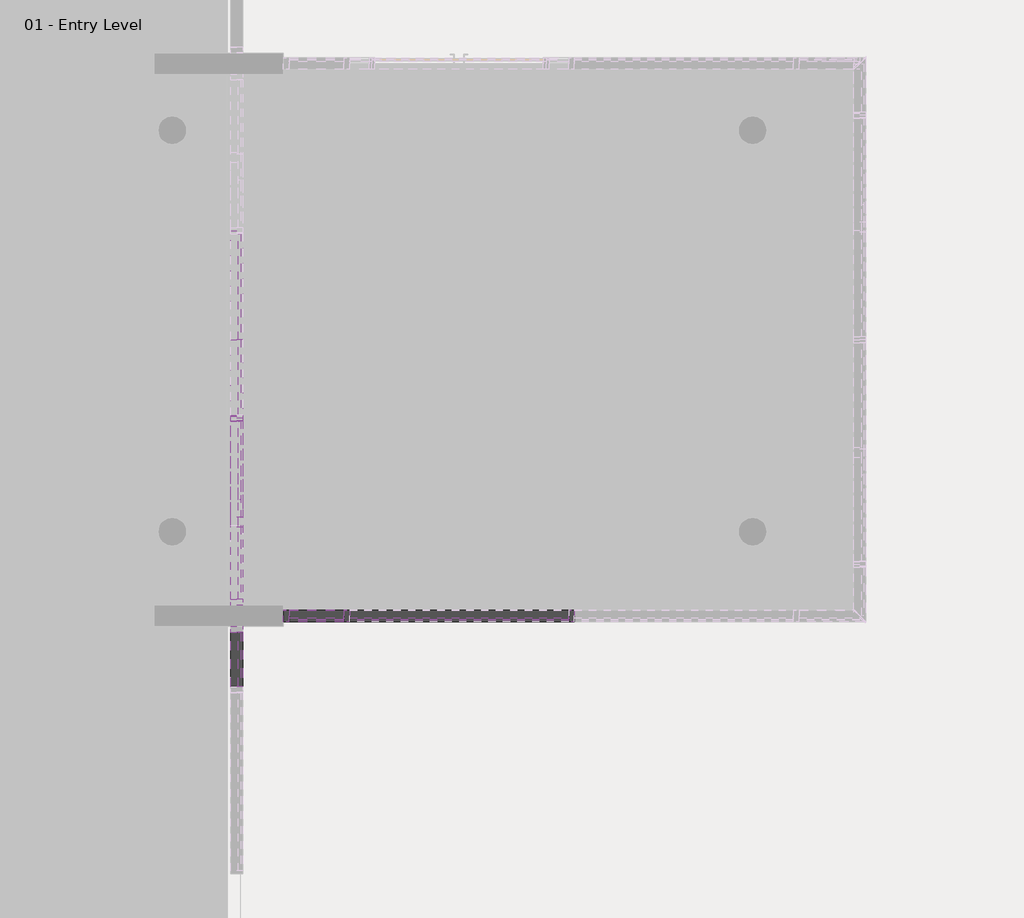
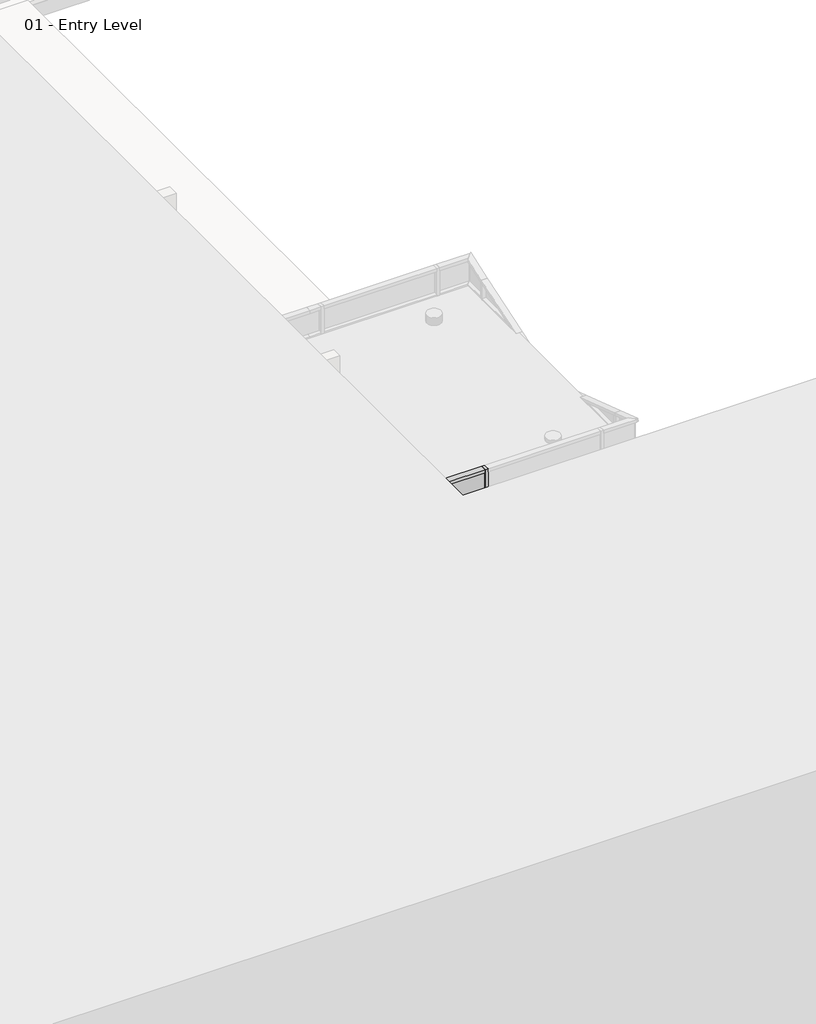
# One storey, part 13 of 35: 83 members, 41 plates.
"""IFC4 building model written with IfcOpenShell, lengths in millimetres."""

from ifc_helpers import new_model, si_unit, origin, place, context, project, spatial, transform, mapped, element, save
from components import member_2b49869a, member_75074519, member_4f18b2ac, member_7a85b04f, member_27fd6fac, member_2603a644, member_ab5e8816, member_dc06a31d, member_4c11d242, member_97c9a22f, member_29dce480, member_6e77e263, member_47bfaf8a, member_b2bde9e6, member_89bfb2f9, member_5aa65f11, member_b5354135, system_panel_glazed_f46199af, system_panel_glazed_10735cc6, system_panel_glazed_1b9d6098, system_panel_glazed_a2373be0, system_panel_glazed_70da479d, system_panel_glazed_6a6e56af, system_panel_glazed_a1864e1b, system_panel_glazed_99a26212, system_panel_glazed_a675a60c, system_panel_glazed_1068a10c, system_panel_glazed_a178916c, system_panel_glazed_0805a858, system_panel_glazed_439dd39a

model = new_model("IFC4")

# Units and contexts
model_context = context("Model", 3, world=origin())
ifc_project = project(units=[si_unit("LENGTHUNIT", "METRE", prefix="MILLI")], contexts=[model_context])

# Site, building, storey
site = spatial("IfcSite", under=ifc_project)
building = spatial("IfcBuilding", under=site)
storey = spatial("IfcBuildingStorey", under=building, Name="01 - Entry Level", Elevation=0.0)

# Members
placement = place(None, origin())
member_shape = member_2b49869a(model_context)
element("IfcMember", 1, ObjectType="Rectangular Mullion : 2.5\" x 5\" rectangular", at=placement, inside=storey, context=model_context, shape_type="MappedRepresentation", body=[
    mapped(member_shape, transform((17184.0207476, 18697.5, 9753.6), x_axis=(0.0, 1.0, 0.0), y_axis=(1.0, 0.0, 0.0), z_axis=(0.0, 0.0, -1.0))),
])
member_2_shape = member_75074519(model_context)
element("IfcMember", 2, ObjectType="Rectangular Mullion : 2.5\" x 5\" rectangular", at=placement, inside=storey, context=model_context, shape_type="MappedRepresentation", body=[
    mapped(member_2_shape, transform((17184.0207476, 16436.9, 9753.6), x_axis=(0.0, 1.0, 0.0), y_axis=(1.0, 0.0, 0.0), z_axis=(0.0, 0.0, -1.0))),
])
member_3_shape = member_4f18b2ac(model_context)
element("IfcMember", 3, ObjectType="Rectangular Mullion : 2.5\" x 5\" rectangular", at=placement, inside=storey, context=model_context, shape_type="MappedRepresentation", body=[
    mapped(member_3_shape, transform((17184.0207476, 18665.75, 10972.8), x_axis=(0.0, 0.0, 1.0), y_axis=(1.0, 0.0, 0.0), z_axis=(0.0, 1.0, 0.0))),
])
member_4_shape = member_7a85b04f(model_context)
element("IfcMember", 4, ObjectType="Rectangular Mullion : 2.5\" x 5\" rectangular", at=placement, inside=storey, context=model_context, shape_type="MappedRepresentation", body=[
    mapped(member_4_shape, transform((17184.0207476, 18665.75, 8534.4), x_axis=(0.0, 0.0, 1.0), y_axis=(1.0, 0.0, 0.0), z_axis=(0.0, 1.0, 0.0))),
])
element("IfcMember", 5, ObjectType="Rectangular Mullion : 2.5\" x 5\" rectangular", at=placement, inside=storey, context=model_context, shape_type="MappedRepresentation", body=[
    mapped(member_4_shape, transform((17184.0207476, 18665.75, 9753.6), x_axis=(0.0, 0.0, 1.0), y_axis=(1.0, 0.0, 0.0), z_axis=(0.0, 1.0, 0.0))),
])
element("IfcMember", 6, ObjectType="Rectangular Mullion : 2.5\" x 5\" rectangular", at=placement, inside=storey, context=model_context, shape_type="MappedRepresentation", body=[
    mapped(member_shape, transform((17184.0207476, 18697.5, 7315.2), x_axis=(0.0, 1.0, 0.0), y_axis=(1.0, 0.0, 0.0), z_axis=(0.0, 0.0, -1.0))),
])
element("IfcMember", 7, ObjectType="Rectangular Mullion : 2.5\" x 5\" rectangular", at=placement, inside=storey, context=model_context, shape_type="MappedRepresentation", body=[
    mapped(member_shape, transform((17184.0207476, 18697.5, 8534.4), x_axis=(0.0, 1.0, 0.0), y_axis=(1.0, 0.0, 0.0), z_axis=(0.0, 0.0, -1.0))),
])
member_5_shape = member_27fd6fac(model_context)
element("IfcMember", 8, ObjectType="Rectangular Mullion : 2.5\" x 5\" rectangular", at=placement, inside=storey, context=model_context, shape_type="MappedRepresentation", body=[
    mapped(member_5_shape, transform((17184.0207476, 19548.4, 6637.4207436), x_axis=(0.0, 0.3162277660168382, -0.9486832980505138), y_axis=(1.0, 0.0, 0.0), z_axis=(0.0, -0.9486832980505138, -0.3162277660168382))),
])
member_6_shape = member_2603a644(model_context)
element("IfcMember", 9, ObjectType="Rectangular Mullion : 2.5\" x 5\" rectangular", at=placement, inside=storey, context=model_context, shape_type="MappedRepresentation", body=[
    mapped(member_6_shape, transform((17184.0207476, 18697.5, 6921.0540769), x_axis=(0.0, -0.31622776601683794, -0.9486832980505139), y_axis=(1.0, 0.0, 0.0), z_axis=(0.0, -0.9486832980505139, 0.31622776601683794))),
])
member_7_shape = member_ab5e8816(model_context)
element("IfcMember", 10, ObjectType="Rectangular Mullion : 2.5\" x 5\" rectangular", at=placement, inside=storey, context=model_context, shape_type="MappedRepresentation", body=[
    mapped(member_7_shape, transform((17184.0207476, 17515.0622308, 7315.2), x_axis=(0.0, -0.31622776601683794, -0.9486832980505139), y_axis=(1.0, 0.0, 0.0), z_axis=(0.0, -0.9486832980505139, 0.31622776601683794))),
])
member_8_shape = member_dc06a31d(model_context)
element("IfcMember", 11, ObjectType="Rectangular Mullion : 2.5\" x 5\" rectangular", at=placement, inside=storey, context=model_context, shape_type="MappedRepresentation", body=[
    mapped(member_8_shape, transform((17184.0207476, 18665.75, 7315.2), x_axis=(0.0, 0.0, 1.0), y_axis=(1.0, 0.0, 0.0), z_axis=(0.0, 1.0, 0.0))),
])
member_9_shape = member_4c11d242(model_context)
element("IfcMember", 12, ObjectType="Rectangular Mullion : 2.5\" x 5\" rectangular", at=placement, inside=storey, context=model_context, shape_type="MappedRepresentation", body=[
    mapped(member_9_shape, transform((17184.0207476, 18697.5, 6921.0540769), x_axis=(0.0, 1.0, 0.0), y_axis=(1.0, 0.0, 0.0), z_axis=(0.0, 0.0, -1.0))),
])
element("IfcMember", 13, ObjectType="Rectangular Mullion : 2.5\" x 5\" rectangular", at=placement, inside=storey, context=model_context, shape_type="MappedRepresentation", body=[
    mapped(member_2_shape, transform((17184.0207476, 16436.9, 2438.4), x_axis=(0.0, 1.0, 0.0), y_axis=(1.0, 0.0, 0.0), z_axis=(0.0, 0.0, -1.0))),
])
element("IfcMember", 14, ObjectType="Rectangular Mullion : 2.5\" x 5\" rectangular", at=placement, inside=storey, context=model_context, shape_type="MappedRepresentation", body=[
    mapped(member_2_shape, transform((17184.0207476, 16436.9, 3657.6), x_axis=(0.0, 1.0, 0.0), y_axis=(1.0, 0.0, 0.0), z_axis=(0.0, 0.0, -1.0))),
])
element("IfcMember", 15, ObjectType="Rectangular Mullion : 2.5\" x 5\" rectangular", at=placement, inside=storey, context=model_context, shape_type="MappedRepresentation", body=[
    mapped(member_2_shape, transform((17184.0207476, 16436.9, 4876.8), x_axis=(0.0, 1.0, 0.0), y_axis=(1.0, 0.0, 0.0), z_axis=(0.0, 0.0, -1.0))),
])
element("IfcMember", 16, ObjectType="Rectangular Mullion : 2.5\" x 5\" rectangular", at=placement, inside=storey, context=model_context, shape_type="MappedRepresentation", body=[
    mapped(member_2_shape, transform((17184.0207476, 16436.9, 6096.0), x_axis=(0.0, 1.0, 0.0), y_axis=(1.0, 0.0, 0.0), z_axis=(0.0, 0.0, -1.0))),
])
element("IfcMember", 17, ObjectType="Rectangular Mullion : 2.5\" x 5\" rectangular", at=placement, inside=storey, context=model_context, shape_type="MappedRepresentation", body=[
    mapped(member_2_shape, transform((17184.0207476, 16436.9, 7315.2), x_axis=(0.0, 1.0, 0.0), y_axis=(1.0, 0.0, 0.0), z_axis=(0.0, 0.0, -1.0))),
])
element("IfcMember", 18, ObjectType="Rectangular Mullion : 2.5\" x 5\" rectangular", at=placement, inside=storey, context=model_context, shape_type="MappedRepresentation", body=[
    mapped(member_2_shape, transform((17184.0207476, 16436.9, 8534.4), x_axis=(0.0, 1.0, 0.0), y_axis=(1.0, 0.0, 0.0), z_axis=(0.0, 0.0, -1.0))),
])
element("IfcMember", 19, ObjectType="Rectangular Mullion : 2.5\" x 5\" rectangular", at=placement, inside=storey, context=model_context, shape_type="MappedRepresentation", body=[
    mapped(member_2_shape, transform((17184.0207476, 16665.5, 9753.6), x_axis=(0.0, -1.0, 0.0), y_axis=(1.0, 0.0, 0.0), z_axis=(0.0, 0.0, 1.0))),
])
member_10_shape = member_97c9a22f(model_context)
element("IfcMember", 20, ObjectType="Rectangular Mullion : 2.5\" x 5\" rectangular", at=placement, inside=storey, context=model_context, shape_type="MappedRepresentation", body=[
    mapped(member_10_shape, transform((17184.0207476, 16665.5, 8534.4), x_axis=(0.0, -1.0, 0.0), y_axis=(1.0, 0.0, 0.0), z_axis=(0.0, 0.0, 1.0))),
])
member_11_shape = member_29dce480(model_context)
element("IfcMember", 21, ObjectType="Rectangular Mullion : 2.5\" x 5\" rectangular", at=placement, inside=storey, context=model_context, shape_type="MappedRepresentation", body=[
    mapped(member_11_shape, transform((17184.0207476, 16373.4, 1219.2), x_axis=(0.0, 0.0, 1.0), y_axis=(1.0, 0.0, 0.0), z_axis=(0.0, 1.0, 0.0))),
])
element("IfcMember", 22, ObjectType="Rectangular Mullion : 2.5\" x 5\" rectangular", at=placement, inside=storey, context=model_context, shape_type="MappedRepresentation", body=[
    mapped(member_11_shape, transform((17184.0207476, 16373.4, 2438.4), x_axis=(0.0, 0.0, 1.0), y_axis=(1.0, 0.0, 0.0), z_axis=(0.0, 1.0, 0.0))),
])
element("IfcMember", 23, ObjectType="Rectangular Mullion : 2.5\" x 5\" rectangular", at=placement, inside=storey, context=model_context, shape_type="MappedRepresentation", body=[
    mapped(member_11_shape, transform((17184.0207476, 16373.4, 3657.6), x_axis=(0.0, 0.0, 1.0), y_axis=(1.0, 0.0, 0.0), z_axis=(0.0, 1.0, 0.0))),
])
element("IfcMember", 24, ObjectType="Rectangular Mullion : 2.5\" x 5\" rectangular", at=placement, inside=storey, context=model_context, shape_type="MappedRepresentation", body=[
    mapped(member_11_shape, transform((17184.0207476, 16373.4, 4876.8), x_axis=(0.0, 0.0, 1.0), y_axis=(1.0, 0.0, 0.0), z_axis=(0.0, 1.0, 0.0))),
])
element("IfcMember", 25, ObjectType="Rectangular Mullion : 2.5\" x 5\" rectangular", at=placement, inside=storey, context=model_context, shape_type="MappedRepresentation", body=[
    mapped(member_11_shape, transform((17184.0207476, 16373.4, 6096.0), x_axis=(0.0, 0.0, 1.0), y_axis=(1.0, 0.0, 0.0), z_axis=(0.0, 1.0, 0.0))),
])
element("IfcMember", 26, ObjectType="Rectangular Mullion : 2.5\" x 5\" rectangular", at=placement, inside=storey, context=model_context, shape_type="MappedRepresentation", body=[
    mapped(member_11_shape, transform((17184.0207476, 16373.4, 7315.2), x_axis=(0.0, 0.0, 1.0), y_axis=(1.0, 0.0, 0.0), z_axis=(0.0, 1.0, 0.0))),
])
element("IfcMember", 27, ObjectType="Rectangular Mullion : 2.5\" x 5\" rectangular", at=placement, inside=storey, context=model_context, shape_type="MappedRepresentation", body=[
    mapped(member_11_shape, transform((17184.0207476, 16373.4, 8534.4), x_axis=(0.0, 0.0, 1.0), y_axis=(1.0, 0.0, 0.0), z_axis=(0.0, 1.0, 0.0))),
])
element("IfcMember", 28, ObjectType="Rectangular Mullion : 2.5\" x 5\" rectangular", at=placement, inside=storey, context=model_context, shape_type="MappedRepresentation", body=[
    mapped(member_11_shape, transform((17184.0207476, 16373.4, 9753.6), x_axis=(0.0, 0.0, 1.0), y_axis=(1.0, 0.0, 0.0), z_axis=(0.0, 1.0, 0.0))),
])
member_12_shape = member_6e77e263(model_context)
element("IfcMember", 29, ObjectType="Rectangular Mullion : 2.5\" x 5\" rectangular", at=placement, inside=storey, context=model_context, shape_type="MappedRepresentation", body=[
    mapped(member_12_shape, transform((18379.5615197, 16551.2, 0.0), x_axis=(1.0, 0.0, 0.0), y_axis=(0.0, -1.0, 0.0), z_axis=(0.0, 0.0, -1.0))),
])
element("IfcMember", 30, ObjectType="Rectangular Mullion : 2.5\" x 5\" rectangular", at=placement, inside=storey, context=model_context, shape_type="MappedRepresentation", body=[
    mapped(member_12_shape, transform((20817.9615197, 16551.2, 0.0), x_axis=(1.0, 0.0, 0.0), y_axis=(0.0, -1.0, 0.0), z_axis=(0.0, 0.0, -1.0))),
])
element("IfcMember", 31, ObjectType="Rectangular Mullion : 2.5\" x 5\" rectangular", at=placement, inside=storey, context=model_context, shape_type="MappedRepresentation", body=[
    mapped(member_12_shape, transform((18379.5615197, 16551.2, 609.6), x_axis=(1.0, 0.0, 0.0), y_axis=(0.0, -1.0, 0.0), z_axis=(0.0, 0.0, -1.0))),
])
element("IfcMember", 32, ObjectType="Rectangular Mullion : 2.5\" x 5\" rectangular", at=placement, inside=storey, context=model_context, shape_type="MappedRepresentation", body=[
    mapped(member_12_shape, transform((20817.9615197, 16551.2, 609.6), x_axis=(1.0, 0.0, 0.0), y_axis=(0.0, -1.0, 0.0), z_axis=(0.0, 0.0, -1.0))),
])
element("IfcMember", 33, ObjectType="Rectangular Mullion : 2.5\" x 5\" rectangular", at=placement, inside=storey, context=model_context, shape_type="MappedRepresentation", body=[
    mapped(member_12_shape, transform((18379.5615197, 16551.2, 1219.2), x_axis=(1.0, 0.0, 0.0), y_axis=(0.0, -1.0, 0.0), z_axis=(0.0, 0.0, -1.0))),
])
element("IfcMember", 34, ObjectType="Rectangular Mullion : 2.5\" x 5\" rectangular", at=placement, inside=storey, context=model_context, shape_type="MappedRepresentation", body=[
    mapped(member_12_shape, transform((20817.9615197, 16551.2, 1219.2), x_axis=(1.0, 0.0, 0.0), y_axis=(0.0, -1.0, 0.0), z_axis=(0.0, 0.0, -1.0))),
])
element("IfcMember", 35, ObjectType="Rectangular Mullion : 2.5\" x 5\" rectangular", at=placement, inside=storey, context=model_context, shape_type="MappedRepresentation", body=[
    mapped(member_12_shape, transform((18379.5615197, 16551.2, 1828.8), x_axis=(1.0, 0.0, 0.0), y_axis=(0.0, -1.0, 0.0), z_axis=(0.0, 0.0, -1.0))),
])
element("IfcMember", 36, ObjectType="Rectangular Mullion : 2.5\" x 5\" rectangular", at=placement, inside=storey, context=model_context, shape_type="MappedRepresentation", body=[
    mapped(member_12_shape, transform((20817.9615197, 16551.2, 1828.8), x_axis=(1.0, 0.0, 0.0), y_axis=(0.0, -1.0, 0.0), z_axis=(0.0, 0.0, -1.0))),
])
element("IfcMember", 37, ObjectType="Rectangular Mullion : 2.5\" x 5\" rectangular", at=placement, inside=storey, context=model_context, shape_type="MappedRepresentation", body=[
    mapped(member_12_shape, transform((18379.5615197, 16551.2, 2438.4), x_axis=(1.0, 0.0, 0.0), y_axis=(0.0, -1.0, 0.0), z_axis=(0.0, 0.0, -1.0))),
])
element("IfcMember", 38, ObjectType="Rectangular Mullion : 2.5\" x 5\" rectangular", at=placement, inside=storey, context=model_context, shape_type="MappedRepresentation", body=[
    mapped(member_12_shape, transform((20817.9615197, 16551.2, 2438.4), x_axis=(1.0, 0.0, 0.0), y_axis=(0.0, -1.0, 0.0), z_axis=(0.0, 0.0, -1.0))),
])
element("IfcMember", 39, ObjectType="Rectangular Mullion : 2.5\" x 5\" rectangular", at=placement, inside=storey, context=model_context, shape_type="MappedRepresentation", body=[
    mapped(member_12_shape, transform((18379.5615197, 16551.2, 3048.0), x_axis=(1.0, 0.0, 0.0), y_axis=(0.0, -1.0, 0.0), z_axis=(0.0, 0.0, -1.0))),
])
element("IfcMember", 40, ObjectType="Rectangular Mullion : 2.5\" x 5\" rectangular", at=placement, inside=storey, context=model_context, shape_type="MappedRepresentation", body=[
    mapped(member_12_shape, transform((20817.9615197, 16551.2, 3048.0), x_axis=(1.0, 0.0, 0.0), y_axis=(0.0, -1.0, 0.0), z_axis=(0.0, 0.0, -1.0))),
])
element("IfcMember", 41, ObjectType="Rectangular Mullion : 2.5\" x 5\" rectangular", at=placement, inside=storey, context=model_context, shape_type="MappedRepresentation", body=[
    mapped(member_12_shape, transform((18379.5615197, 16551.2, 3657.6), x_axis=(1.0, 0.0, 0.0), y_axis=(0.0, -1.0, 0.0), z_axis=(0.0, 0.0, -1.0))),
])
element("IfcMember", 42, ObjectType="Rectangular Mullion : 2.5\" x 5\" rectangular", at=placement, inside=storey, context=model_context, shape_type="MappedRepresentation", body=[
    mapped(member_12_shape, transform((18379.5615197, 16551.2, 4267.2), x_axis=(1.0, 0.0, 0.0), y_axis=(0.0, -1.0, 0.0), z_axis=(0.0, 0.0, -1.0))),
])
element("IfcMember", 43, ObjectType="Rectangular Mullion : 2.5\" x 5\" rectangular", at=placement, inside=storey, context=model_context, shape_type="MappedRepresentation", body=[
    mapped(member_12_shape, transform((18379.5615197, 16551.2, 4876.8), x_axis=(1.0, 0.0, 0.0), y_axis=(0.0, -1.0, 0.0), z_axis=(0.0, 0.0, -1.0))),
])
element("IfcMember", 44, ObjectType="Rectangular Mullion : 2.5\" x 5\" rectangular", at=placement, inside=storey, context=model_context, shape_type="MappedRepresentation", body=[
    mapped(member_12_shape, transform((18379.5615197, 16551.2, 5486.4), x_axis=(1.0, 0.0, 0.0), y_axis=(0.0, -1.0, 0.0), z_axis=(0.0, 0.0, -1.0))),
])
element("IfcMember", 45, ObjectType="Rectangular Mullion : 2.5\" x 5\" rectangular", at=placement, inside=storey, context=model_context, shape_type="MappedRepresentation", body=[
    mapped(member_12_shape, transform((18379.5615197, 16551.2, 6096.0), x_axis=(1.0, 0.0, 0.0), y_axis=(0.0, -1.0, 0.0), z_axis=(0.0, 0.0, -1.0))),
])
element("IfcMember", 46, ObjectType="Rectangular Mullion : 2.5\" x 5\" rectangular", at=placement, inside=storey, context=model_context, shape_type="MappedRepresentation", body=[
    mapped(member_12_shape, transform((20817.9615197, 16551.2, 3657.6), x_axis=(1.0, 0.0, 0.0), y_axis=(0.0, -1.0, 0.0), z_axis=(0.0, 0.0, -1.0))),
])
element("IfcMember", 47, ObjectType="Rectangular Mullion : 2.5\" x 5\" rectangular", at=placement, inside=storey, context=model_context, shape_type="MappedRepresentation", body=[
    mapped(member_12_shape, transform((20817.9615197, 16551.2, 4267.2), x_axis=(1.0, 0.0, 0.0), y_axis=(0.0, -1.0, 0.0), z_axis=(0.0, 0.0, -1.0))),
])
element("IfcMember", 48, ObjectType="Rectangular Mullion : 2.5\" x 5\" rectangular", at=placement, inside=storey, context=model_context, shape_type="MappedRepresentation", body=[
    mapped(member_12_shape, transform((20817.9615197, 16551.2, 4876.8), x_axis=(1.0, 0.0, 0.0), y_axis=(0.0, -1.0, 0.0), z_axis=(0.0, 0.0, -1.0))),
])
element("IfcMember", 49, ObjectType="Rectangular Mullion : 2.5\" x 5\" rectangular", at=placement, inside=storey, context=model_context, shape_type="MappedRepresentation", body=[
    mapped(member_12_shape, transform((20817.9615197, 16551.2, 5486.4), x_axis=(1.0, 0.0, 0.0), y_axis=(0.0, -1.0, 0.0), z_axis=(0.0, 0.0, -1.0))),
])
element("IfcMember", 50, ObjectType="Rectangular Mullion : 2.5\" x 5\" rectangular", at=placement, inside=storey, context=model_context, shape_type="MappedRepresentation", body=[
    mapped(member_12_shape, transform((20817.9615197, 16551.2, 6096.0), x_axis=(1.0, 0.0, 0.0), y_axis=(0.0, -1.0, 0.0), z_axis=(0.0, 0.0, -1.0))),
])
member_13_shape = member_47bfaf8a(model_context)
element("IfcMember", 51, ObjectType="Rectangular Mullion : 2.5\" x 5\" rectangular", at=placement, inside=storey, context=model_context, shape_type="MappedRepresentation", body=[
    mapped(member_13_shape, transform((17688.9115197, 16551.2, 609.6), x_axis=(-1.0, 0.0, 0.0), y_axis=(0.0, -1.0, 0.0), z_axis=(0.0, 0.0, 1.0))),
])
element("IfcMember", 52, ObjectType="Rectangular Mullion : 2.5\" x 5\" rectangular", at=placement, inside=storey, context=model_context, shape_type="MappedRepresentation", body=[
    mapped(member_13_shape, transform((17688.9115197, 16551.2, 1219.2), x_axis=(-1.0, 0.0, 0.0), y_axis=(0.0, -1.0, 0.0), z_axis=(0.0, 0.0, 1.0))),
])
element("IfcMember", 53, ObjectType="Rectangular Mullion : 2.5\" x 5\" rectangular", at=placement, inside=storey, context=model_context, shape_type="MappedRepresentation", body=[
    mapped(member_13_shape, transform((17688.9115197, 16551.2, 1828.8), x_axis=(-1.0, 0.0, 0.0), y_axis=(0.0, -1.0, 0.0), z_axis=(0.0, 0.0, 1.0))),
])
element("IfcMember", 54, ObjectType="Rectangular Mullion : 2.5\" x 5\" rectangular", at=placement, inside=storey, context=model_context, shape_type="MappedRepresentation", body=[
    mapped(member_13_shape, transform((17688.9115197, 16551.2, 2438.4), x_axis=(-1.0, 0.0, 0.0), y_axis=(0.0, -1.0, 0.0), z_axis=(0.0, 0.0, 1.0))),
])
element("IfcMember", 55, ObjectType="Rectangular Mullion : 2.5\" x 5\" rectangular", at=placement, inside=storey, context=model_context, shape_type="MappedRepresentation", body=[
    mapped(member_13_shape, transform((17688.9115197, 16551.2, 3048.0), x_axis=(-1.0, 0.0, 0.0), y_axis=(0.0, -1.0, 0.0), z_axis=(0.0, 0.0, 1.0))),
])
element("IfcMember", 56, ObjectType="Rectangular Mullion : 2.5\" x 5\" rectangular", at=placement, inside=storey, context=model_context, shape_type="MappedRepresentation", body=[
    mapped(member_13_shape, transform((17688.9115197, 16551.2, 3657.6), x_axis=(-1.0, 0.0, 0.0), y_axis=(0.0, -1.0, 0.0), z_axis=(0.0, 0.0, 1.0))),
])
element("IfcMember", 57, ObjectType="Rectangular Mullion : 2.5\" x 5\" rectangular", at=placement, inside=storey, context=model_context, shape_type="MappedRepresentation", body=[
    mapped(member_13_shape, transform((17688.9115197, 16551.2, 4267.2), x_axis=(-1.0, 0.0, 0.0), y_axis=(0.0, -1.0, 0.0), z_axis=(0.0, 0.0, 1.0))),
])
element("IfcMember", 58, ObjectType="Rectangular Mullion : 2.5\" x 5\" rectangular", at=placement, inside=storey, context=model_context, shape_type="MappedRepresentation", body=[
    mapped(member_13_shape, transform((17688.9115197, 16551.2, 4876.8), x_axis=(-1.0, 0.0, 0.0), y_axis=(0.0, -1.0, 0.0), z_axis=(0.0, 0.0, 1.0))),
])
element("IfcMember", 59, ObjectType="Rectangular Mullion : 2.5\" x 5\" rectangular", at=placement, inside=storey, context=model_context, shape_type="MappedRepresentation", body=[
    mapped(member_13_shape, transform((17688.9115197, 16551.2, 5486.4), x_axis=(-1.0, 0.0, 0.0), y_axis=(0.0, -1.0, 0.0), z_axis=(0.0, 0.0, 1.0))),
])
element("IfcMember", 60, ObjectType="Rectangular Mullion : 2.5\" x 5\" rectangular", at=placement, inside=storey, context=model_context, shape_type="MappedRepresentation", body=[
    mapped(member_13_shape, transform((17688.9115197, 16551.2, 6096.0), x_axis=(-1.0, 0.0, 0.0), y_axis=(0.0, -1.0, 0.0), z_axis=(0.0, 0.0, 1.0))),
])
element("IfcMember", 61, ObjectType="Rectangular Mullion : 2.5\" x 5\" rectangular", at=placement, inside=storey, context=model_context, shape_type="MappedRepresentation", body=[
    mapped(member_13_shape, transform((17688.9115197, 16551.2, 6705.6), x_axis=(-1.0, 0.0, 0.0), y_axis=(0.0, -1.0, 0.0), z_axis=(0.0, 0.0, 1.0))),
])
member_14_shape = member_b2bde9e6(model_context)
element("IfcMember", 62, ObjectType="Rectangular Mullion : 2.5\" x 5\" rectangular", at=placement, inside=storey, context=model_context, shape_type="MappedRepresentation", body=[
    mapped(member_14_shape, transform((18411.3115197, 16551.2, 0.0), x_axis=(0.0, 0.0, -1.0), y_axis=(0.0, -1.0, 0.0), z_axis=(-1.0, 0.0, 0.0))),
])
element("IfcMember", 63, ObjectType="Rectangular Mullion : 2.5\" x 5\" rectangular", at=placement, inside=storey, context=model_context, shape_type="MappedRepresentation", body=[
    mapped(member_14_shape, transform((20849.7115197, 16551.2, 0.0), x_axis=(0.0, 0.0, -1.0), y_axis=(0.0, -1.0, 0.0), z_axis=(-1.0, 0.0, 0.0))),
])
member_15_shape = member_89bfb2f9(model_context)
element("IfcMember", 64, ObjectType="Rectangular Mullion : 2.5\" x 5\" rectangular", at=placement, inside=storey, context=model_context, shape_type="MappedRepresentation", body=[
    mapped(member_15_shape, transform((20786.2115197, 16551.2, 609.6), x_axis=(0.0, 0.0, 1.0), y_axis=(0.0, -1.0, 0.0), z_axis=(1.0, 0.0, 0.0))),
])
element("IfcMember", 65, ObjectType="Rectangular Mullion : 2.5\" x 5\" rectangular", at=placement, inside=storey, context=model_context, shape_type="MappedRepresentation", body=[
    mapped(member_15_shape, transform((20786.2115197, 16551.2, 1219.2), x_axis=(0.0, 0.0, 1.0), y_axis=(0.0, -1.0, 0.0), z_axis=(1.0, 0.0, 0.0))),
])
element("IfcMember", 66, ObjectType="Rectangular Mullion : 2.5\" x 5\" rectangular", at=placement, inside=storey, context=model_context, shape_type="MappedRepresentation", body=[
    mapped(member_15_shape, transform((20786.2115197, 16551.2, 1828.8), x_axis=(0.0, 0.0, 1.0), y_axis=(0.0, -1.0, 0.0), z_axis=(1.0, 0.0, 0.0))),
])
element("IfcMember", 67, ObjectType="Rectangular Mullion : 2.5\" x 5\" rectangular", at=placement, inside=storey, context=model_context, shape_type="MappedRepresentation", body=[
    mapped(member_15_shape, transform((20786.2115197, 16551.2, 2438.4), x_axis=(0.0, 0.0, 1.0), y_axis=(0.0, -1.0, 0.0), z_axis=(1.0, 0.0, 0.0))),
])
element("IfcMember", 68, ObjectType="Rectangular Mullion : 2.5\" x 5\" rectangular", at=placement, inside=storey, context=model_context, shape_type="MappedRepresentation", body=[
    mapped(member_15_shape, transform((20786.2115197, 16551.2, 3048.0), x_axis=(0.0, 0.0, 1.0), y_axis=(0.0, -1.0, 0.0), z_axis=(1.0, 0.0, 0.0))),
])
member_16_shape = member_5aa65f11(model_context)
element("IfcMember", 69, ObjectType="Rectangular Mullion : 2.5\" x 5\" rectangular", at=placement, inside=storey, context=model_context, shape_type="MappedRepresentation", body=[
    mapped(member_16_shape, transform((18347.8115197, 16551.2, 7315.2), x_axis=(0.0, 0.0, 1.0), y_axis=(0.0, -1.0, 0.0), z_axis=(1.0, 0.0, 0.0))),
])
element("IfcMember", 70, ObjectType="Rectangular Mullion : 2.5\" x 5\" rectangular", at=placement, inside=storey, context=model_context, shape_type="MappedRepresentation", body=[
    mapped(member_14_shape, transform((20786.2115197, 16551.2, 7315.2), x_axis=(0.0, 0.0, 1.0), y_axis=(0.0, -1.0, 0.0), z_axis=(1.0, 0.0, 0.0))),
])
member_17_shape = member_b5354135(model_context)
element("IfcMember", 71, ObjectType="Rectangular Mullion : 2.5\" x 5\" rectangular", at=placement, inside=storey, context=model_context, shape_type="MappedRepresentation", body=[
    mapped(member_17_shape, transform((18347.8115197, 16551.2, 609.6), x_axis=(0.0, 0.0, 1.0), y_axis=(0.0, -1.0, 0.0), z_axis=(1.0, 0.0, 0.0))),
])
element("IfcMember", 72, ObjectType="Rectangular Mullion : 2.5\" x 5\" rectangular", at=placement, inside=storey, context=model_context, shape_type="MappedRepresentation", body=[
    mapped(member_17_shape, transform((18347.8115197, 16551.2, 1219.2), x_axis=(0.0, 0.0, 1.0), y_axis=(0.0, -1.0, 0.0), z_axis=(1.0, 0.0, 0.0))),
])
element("IfcMember", 73, ObjectType="Rectangular Mullion : 2.5\" x 5\" rectangular", at=placement, inside=storey, context=model_context, shape_type="MappedRepresentation", body=[
    mapped(member_17_shape, transform((18347.8115197, 16551.2, 1828.8), x_axis=(0.0, 0.0, 1.0), y_axis=(0.0, -1.0, 0.0), z_axis=(1.0, 0.0, 0.0))),
])
element("IfcMember", 74, ObjectType="Rectangular Mullion : 2.5\" x 5\" rectangular", at=placement, inside=storey, context=model_context, shape_type="MappedRepresentation", body=[
    mapped(member_17_shape, transform((18347.8115197, 16551.2, 2438.4), x_axis=(0.0, 0.0, 1.0), y_axis=(0.0, -1.0, 0.0), z_axis=(1.0, 0.0, 0.0))),
])
element("IfcMember", 75, ObjectType="Rectangular Mullion : 2.5\" x 5\" rectangular", at=placement, inside=storey, context=model_context, shape_type="MappedRepresentation", body=[
    mapped(member_17_shape, transform((18347.8115197, 16551.2, 3048.0), x_axis=(0.0, 0.0, 1.0), y_axis=(0.0, -1.0, 0.0), z_axis=(1.0, 0.0, 0.0))),
])
element("IfcMember", 76, ObjectType="Rectangular Mullion : 2.5\" x 5\" rectangular", at=placement, inside=storey, context=model_context, shape_type="MappedRepresentation", body=[
    mapped(member_17_shape, transform((18347.8115197, 16551.2, 3657.6), x_axis=(0.0, 0.0, 1.0), y_axis=(0.0, -1.0, 0.0), z_axis=(1.0, 0.0, 0.0))),
])
element("IfcMember", 77, ObjectType="Rectangular Mullion : 2.5\" x 5\" rectangular", at=placement, inside=storey, context=model_context, shape_type="MappedRepresentation", body=[
    mapped(member_17_shape, transform((18347.8115197, 16551.2, 4267.2), x_axis=(0.0, 0.0, 1.0), y_axis=(0.0, -1.0, 0.0), z_axis=(1.0, 0.0, 0.0))),
])
element("IfcMember", 78, ObjectType="Rectangular Mullion : 2.5\" x 5\" rectangular", at=placement, inside=storey, context=model_context, shape_type="MappedRepresentation", body=[
    mapped(member_17_shape, transform((18347.8115197, 16551.2, 4876.8), x_axis=(0.0, 0.0, 1.0), y_axis=(0.0, -1.0, 0.0), z_axis=(1.0, 0.0, 0.0))),
])
element("IfcMember", 79, ObjectType="Rectangular Mullion : 2.5\" x 5\" rectangular", at=placement, inside=storey, context=model_context, shape_type="MappedRepresentation", body=[
    mapped(member_17_shape, transform((18347.8115197, 16551.2, 5486.4), x_axis=(0.0, 0.0, 1.0), y_axis=(0.0, -1.0, 0.0), z_axis=(1.0, 0.0, 0.0))),
])
element("IfcMember", 80, ObjectType="Rectangular Mullion : 2.5\" x 5\" rectangular", at=placement, inside=storey, context=model_context, shape_type="MappedRepresentation", body=[
    mapped(member_17_shape, transform((18347.8115197, 16551.2, 6096.0), x_axis=(0.0, 0.0, 1.0), y_axis=(0.0, -1.0, 0.0), z_axis=(1.0, 0.0, 0.0))),
])
element("IfcMember", 81, ObjectType="Rectangular Mullion : 2.5\" x 5\" rectangular", at=placement, inside=storey, context=model_context, shape_type="MappedRepresentation", body=[
    mapped(member_17_shape, transform((18347.8115197, 16551.2, 6705.6), x_axis=(0.0, 0.0, 1.0), y_axis=(0.0, -1.0, 0.0), z_axis=(1.0, 0.0, 0.0))),
])
element("IfcMember", 82, ObjectType="Rectangular Mullion : 2.5\" x 5\" rectangular", at=placement, inside=storey, context=model_context, shape_type="MappedRepresentation", body=[
    mapped(member_12_shape, transform((18379.5615197, 16551.2, 6705.6), x_axis=(1.0, 0.0, 0.0), y_axis=(0.0, -1.0, 0.0), z_axis=(0.0, 0.0, -1.0))),
])
element("IfcMember", 83, ObjectType="Rectangular Mullion : 2.5\" x 5\" rectangular", at=placement, inside=storey, context=model_context, shape_type="MappedRepresentation", body=[
    mapped(member_12_shape, transform((20817.9615197, 16551.2, 6705.6), x_axis=(1.0, 0.0, 0.0), y_axis=(0.0, -1.0, 0.0), z_axis=(0.0, 0.0, -1.0))),
])

# Plates
system_panel_glazed_shape = system_panel_glazed_f46199af(model_context)
element("IfcPlate", 84, ObjectType="System Panel : Glazed", at=placement, inside=storey, context=model_context, shape_type="MappedRepresentation", body=[
    mapped(system_panel_glazed_shape, transform((17184.0207476, 17697.375, 9785.35), x_axis=(0.0, 1.0, 0.0), y_axis=(-1.0, 0.0, 0.0), z_axis=(0.0, 0.0, 1.0))),
])
system_panel_glazed_2_shape = system_panel_glazed_10735cc6(model_context)
element("IfcPlate", 85, ObjectType="System Panel : Glazed", at=placement, inside=storey, context=model_context, shape_type="MappedRepresentation", body=[
    mapped(system_panel_glazed_2_shape, transform((17184.0207476, 18238.4334311, 6998.5722874), x_axis=(0.0, 1.0, 0.0), y_axis=(-1.0, 0.0, 0.0), z_axis=(0.0, 0.0, 1.0))),
])
system_panel_glazed_3_shape = system_panel_glazed_1b9d6098(model_context)
element("IfcPlate", 86, ObjectType="System Panel : Glazed", at=placement, inside=storey, context=model_context, shape_type="MappedRepresentation", body=[
    mapped(system_panel_glazed_3_shape, transform((17184.0207476, 19713.5, 9785.35), x_axis=(0.0, 1.0, 0.0), y_axis=(-1.0, 0.0, 0.0), z_axis=(0.0, 0.0, 1.0))),
])
system_panel_glazed_4_shape = system_panel_glazed_a2373be0(model_context)
element("IfcPlate", 87, ObjectType="System Panel : Glazed", at=placement, inside=storey, context=model_context, shape_type="MappedRepresentation", body=[
    mapped(system_panel_glazed_4_shape, transform((17184.0207476, 17697.375, 8566.15), x_axis=(0.0, 1.0, 0.0), y_axis=(-1.0, 0.0, 0.0), z_axis=(0.0, 0.0, 1.0))),
])
system_panel_glazed_5_shape = system_panel_glazed_70da479d(model_context)
element("IfcPlate", 88, ObjectType="System Panel : Glazed", at=placement, inside=storey, context=model_context, shape_type="MappedRepresentation", body=[
    mapped(system_panel_glazed_5_shape, transform((17184.0207476, 19713.5, 7346.95), x_axis=(0.0, 1.0, 0.0), y_axis=(-1.0, 0.0, 0.0), z_axis=(0.0, 0.0, 1.0))),
])
element("IfcPlate", 89, ObjectType="System Panel : Glazed", at=placement, inside=storey, context=model_context, shape_type="MappedRepresentation", body=[
    mapped(system_panel_glazed_5_shape, transform((17184.0207476, 19713.5, 8566.15), x_axis=(0.0, 1.0, 0.0), y_axis=(-1.0, 0.0, 0.0), z_axis=(0.0, 0.0, 1.0))),
])
system_panel_glazed_6_shape = system_panel_glazed_6a6e56af(model_context)
element("IfcPlate", 90, ObjectType="System Panel : Glazed", at=placement, inside=storey, context=model_context, shape_type="MappedRepresentation", body=[
    mapped(system_panel_glazed_6_shape, transform((17184.0207476, 19713.5, 6704.3556207), x_axis=(0.0, 1.0, 0.0), y_axis=(-1.0, 0.0, 0.0), z_axis=(0.0, 0.0, 1.0))),
])
system_panel_glazed_7_shape = system_panel_glazed_a1864e1b(model_context)
element("IfcPlate", 91, ObjectType="System Panel : Glazed", at=placement, inside=storey, context=model_context, shape_type="MappedRepresentation", body=[
    mapped(system_panel_glazed_7_shape, transform((17184.0207476, 17697.375, 7346.95), x_axis=(0.0, 1.0, 0.0), y_axis=(-1.0, 0.0, 0.0), z_axis=(0.0, 0.0, 1.0))),
])
system_panel_glazed_8_shape = system_panel_glazed_99a26212(model_context)
element("IfcPlate", 92, ObjectType="System Panel : Glazed", at=placement, inside=storey, context=model_context, shape_type="MappedRepresentation", body=[
    mapped(system_panel_glazed_8_shape, transform((17184.0207476, 16078.125, 63.5), x_axis=(0.0, 1.0, 0.0), y_axis=(-1.0, 0.0, 0.0), z_axis=(0.0, 0.0, 1.0))),
])
element("IfcPlate", 93, ObjectType="System Panel : Glazed", at=placement, inside=storey, context=model_context, shape_type="MappedRepresentation", body=[
    mapped(system_panel_glazed_8_shape, transform((17184.0207476, 16078.125, 9785.35), x_axis=(0.0, 1.0, 0.0), y_axis=(-1.0, 0.0, 0.0), z_axis=(0.0, 0.0, 1.0))),
])
system_panel_glazed_9_shape = system_panel_glazed_a675a60c(model_context)
element("IfcPlate", 94, ObjectType="System Panel : Glazed", at=placement, inside=storey, context=model_context, shape_type="MappedRepresentation", body=[
    mapped(system_panel_glazed_9_shape, transform((17184.0207476, 16078.125, 1250.95), x_axis=(0.0, 1.0, 0.0), y_axis=(-1.0, 0.0, 0.0), z_axis=(0.0, 0.0, 1.0))),
])
element("IfcPlate", 95, ObjectType="System Panel : Glazed", at=placement, inside=storey, context=model_context, shape_type="MappedRepresentation", body=[
    mapped(system_panel_glazed_9_shape, transform((17184.0207476, 16078.125, 2470.15), x_axis=(0.0, 1.0, 0.0), y_axis=(-1.0, 0.0, 0.0), z_axis=(0.0, 0.0, 1.0))),
])
element("IfcPlate", 96, ObjectType="System Panel : Glazed", at=placement, inside=storey, context=model_context, shape_type="MappedRepresentation", body=[
    mapped(system_panel_glazed_9_shape, transform((17184.0207476, 16078.125, 3689.35), x_axis=(0.0, 1.0, 0.0), y_axis=(-1.0, 0.0, 0.0), z_axis=(0.0, 0.0, 1.0))),
])
element("IfcPlate", 97, ObjectType="System Panel : Glazed", at=placement, inside=storey, context=model_context, shape_type="MappedRepresentation", body=[
    mapped(system_panel_glazed_9_shape, transform((17184.0207476, 16078.125, 4908.55), x_axis=(0.0, 1.0, 0.0), y_axis=(-1.0, 0.0, 0.0), z_axis=(0.0, 0.0, 1.0))),
])
element("IfcPlate", 98, ObjectType="System Panel : Glazed", at=placement, inside=storey, context=model_context, shape_type="MappedRepresentation", body=[
    mapped(system_panel_glazed_9_shape, transform((17184.0207476, 16078.125, 6127.75), x_axis=(0.0, 1.0, 0.0), y_axis=(-1.0, 0.0, 0.0), z_axis=(0.0, 0.0, 1.0))),
])
element("IfcPlate", 99, ObjectType="System Panel : Glazed", at=placement, inside=storey, context=model_context, shape_type="MappedRepresentation", body=[
    mapped(system_panel_glazed_9_shape, transform((17184.0207476, 16078.125, 7346.95), x_axis=(0.0, 1.0, 0.0), y_axis=(-1.0, 0.0, 0.0), z_axis=(0.0, 0.0, 1.0))),
])
element("IfcPlate", 100, ObjectType="System Panel : Glazed", at=placement, inside=storey, context=model_context, shape_type="MappedRepresentation", body=[
    mapped(system_panel_glazed_9_shape, transform((17184.0207476, 16078.125, 8566.15), x_axis=(0.0, 1.0, 0.0), y_axis=(-1.0, 0.0, 0.0), z_axis=(0.0, 0.0, 1.0))),
])
system_panel_glazed_10_shape = system_panel_glazed_1068a10c(model_context)
element("IfcPlate", 101, ObjectType="System Panel : Glazed", at=placement, inside=storey, context=model_context, shape_type="MappedRepresentation", body=[
    mapped(system_panel_glazed_10_shape, transform((19598.7615197, 16551.2, 63.5), x_axis=(1.0, 0.0, 0.0), y_axis=(0.0, 1.0, 0.0), z_axis=(0.0, 0.0, 1.0))),
])
element("IfcPlate", 102, ObjectType="System Panel : Glazed", at=placement, inside=storey, context=model_context, shape_type="MappedRepresentation", body=[
    mapped(system_panel_glazed_10_shape, transform((19598.7615197, 16551.2, 6737.35), x_axis=(1.0, 0.0, 0.0), y_axis=(0.0, 1.0, 0.0), z_axis=(0.0, 0.0, 1.0))),
])
system_panel_glazed_11_shape = system_panel_glazed_a178916c(model_context)
element("IfcPlate", 103, ObjectType="System Panel : Glazed", at=placement, inside=storey, context=model_context, shape_type="MappedRepresentation", body=[
    mapped(system_panel_glazed_11_shape, transform((19598.7615197, 16551.2, 641.35), x_axis=(1.0, 0.0, 0.0), y_axis=(0.0, 1.0, 0.0), z_axis=(0.0, 0.0, 1.0))),
])
element("IfcPlate", 104, ObjectType="System Panel : Glazed", at=placement, inside=storey, context=model_context, shape_type="MappedRepresentation", body=[
    mapped(system_panel_glazed_11_shape, transform((19598.7615197, 16551.2, 1250.95), x_axis=(1.0, 0.0, 0.0), y_axis=(0.0, 1.0, 0.0), z_axis=(0.0, 0.0, 1.0))),
])
element("IfcPlate", 105, ObjectType="System Panel : Glazed", at=placement, inside=storey, context=model_context, shape_type="MappedRepresentation", body=[
    mapped(system_panel_glazed_11_shape, transform((19598.7615197, 16551.2, 1860.55), x_axis=(1.0, 0.0, 0.0), y_axis=(0.0, 1.0, 0.0), z_axis=(0.0, 0.0, 1.0))),
])
element("IfcPlate", 106, ObjectType="System Panel : Glazed", at=placement, inside=storey, context=model_context, shape_type="MappedRepresentation", body=[
    mapped(system_panel_glazed_11_shape, transform((19598.7615197, 16551.2, 2470.15), x_axis=(1.0, 0.0, 0.0), y_axis=(0.0, 1.0, 0.0), z_axis=(0.0, 0.0, 1.0))),
])
element("IfcPlate", 107, ObjectType="System Panel : Glazed", at=placement, inside=storey, context=model_context, shape_type="MappedRepresentation", body=[
    mapped(system_panel_glazed_11_shape, transform((19598.7615197, 16551.2, 3079.75), x_axis=(1.0, 0.0, 0.0), y_axis=(0.0, 1.0, 0.0), z_axis=(0.0, 0.0, 1.0))),
])
element("IfcPlate", 108, ObjectType="System Panel : Glazed", at=placement, inside=storey, context=model_context, shape_type="MappedRepresentation", body=[
    mapped(system_panel_glazed_11_shape, transform((19598.7615197, 16551.2, 3689.35), x_axis=(1.0, 0.0, 0.0), y_axis=(0.0, 1.0, 0.0), z_axis=(0.0, 0.0, 1.0))),
])
element("IfcPlate", 109, ObjectType="System Panel : Glazed", at=placement, inside=storey, context=model_context, shape_type="MappedRepresentation", body=[
    mapped(system_panel_glazed_11_shape, transform((19598.7615197, 16551.2, 4298.95), x_axis=(1.0, 0.0, 0.0), y_axis=(0.0, 1.0, 0.0), z_axis=(0.0, 0.0, 1.0))),
])
element("IfcPlate", 110, ObjectType="System Panel : Glazed", at=placement, inside=storey, context=model_context, shape_type="MappedRepresentation", body=[
    mapped(system_panel_glazed_11_shape, transform((19598.7615197, 16551.2, 4908.55), x_axis=(1.0, 0.0, 0.0), y_axis=(0.0, 1.0, 0.0), z_axis=(0.0, 0.0, 1.0))),
])
element("IfcPlate", 111, ObjectType="System Panel : Glazed", at=placement, inside=storey, context=model_context, shape_type="MappedRepresentation", body=[
    mapped(system_panel_glazed_11_shape, transform((19598.7615197, 16551.2, 5518.15), x_axis=(1.0, 0.0, 0.0), y_axis=(0.0, 1.0, 0.0), z_axis=(0.0, 0.0, 1.0))),
])
element("IfcPlate", 112, ObjectType="System Panel : Glazed", at=placement, inside=storey, context=model_context, shape_type="MappedRepresentation", body=[
    mapped(system_panel_glazed_11_shape, transform((19598.7615197, 16551.2, 6127.75), x_axis=(1.0, 0.0, 0.0), y_axis=(0.0, 1.0, 0.0), z_axis=(0.0, 0.0, 1.0))),
])
system_panel_glazed_12_shape = system_panel_glazed_0805a858(model_context)
element("IfcPlate", 113, ObjectType="System Panel : Glazed", at=placement, inside=storey, context=model_context, shape_type="MappedRepresentation", body=[
    mapped(system_panel_glazed_12_shape, transform((18050.1115197, 16551.2, 63.5), x_axis=(1.0, 0.0, 0.0), y_axis=(0.0, 1.0, 0.0), z_axis=(0.0, 0.0, 1.0))),
])
element("IfcPlate", 114, ObjectType="System Panel : Glazed", at=placement, inside=storey, context=model_context, shape_type="MappedRepresentation", body=[
    mapped(system_panel_glazed_12_shape, transform((18050.1115197, 16551.2, 6737.35), x_axis=(1.0, 0.0, 0.0), y_axis=(0.0, 1.0, 0.0), z_axis=(0.0, 0.0, 1.0))),
])
system_panel_glazed_13_shape = system_panel_glazed_439dd39a(model_context)
element("IfcPlate", 115, ObjectType="System Panel : Glazed", at=placement, inside=storey, context=model_context, shape_type="MappedRepresentation", body=[
    mapped(system_panel_glazed_13_shape, transform((18050.1115197, 16551.2, 641.35), x_axis=(1.0, 0.0, 0.0), y_axis=(0.0, 1.0, 0.0), z_axis=(0.0, 0.0, 1.0))),
])
element("IfcPlate", 116, ObjectType="System Panel : Glazed", at=placement, inside=storey, context=model_context, shape_type="MappedRepresentation", body=[
    mapped(system_panel_glazed_13_shape, transform((18050.1115197, 16551.2, 1250.95), x_axis=(1.0, 0.0, 0.0), y_axis=(0.0, 1.0, 0.0), z_axis=(0.0, 0.0, 1.0))),
])
element("IfcPlate", 117, ObjectType="System Panel : Glazed", at=placement, inside=storey, context=model_context, shape_type="MappedRepresentation", body=[
    mapped(system_panel_glazed_13_shape, transform((18050.1115197, 16551.2, 1860.55), x_axis=(1.0, 0.0, 0.0), y_axis=(0.0, 1.0, 0.0), z_axis=(0.0, 0.0, 1.0))),
])
element("IfcPlate", 118, ObjectType="System Panel : Glazed", at=placement, inside=storey, context=model_context, shape_type="MappedRepresentation", body=[
    mapped(system_panel_glazed_13_shape, transform((18050.1115197, 16551.2, 2470.15), x_axis=(1.0, 0.0, 0.0), y_axis=(0.0, 1.0, 0.0), z_axis=(0.0, 0.0, 1.0))),
])
element("IfcPlate", 119, ObjectType="System Panel : Glazed", at=placement, inside=storey, context=model_context, shape_type="MappedRepresentation", body=[
    mapped(system_panel_glazed_13_shape, transform((18050.1115197, 16551.2, 3079.75), x_axis=(1.0, 0.0, 0.0), y_axis=(0.0, 1.0, 0.0), z_axis=(0.0, 0.0, 1.0))),
])
element("IfcPlate", 120, ObjectType="System Panel : Glazed", at=placement, inside=storey, context=model_context, shape_type="MappedRepresentation", body=[
    mapped(system_panel_glazed_13_shape, transform((18050.1115197, 16551.2, 3689.35), x_axis=(1.0, 0.0, 0.0), y_axis=(0.0, 1.0, 0.0), z_axis=(0.0, 0.0, 1.0))),
])
element("IfcPlate", 121, ObjectType="System Panel : Glazed", at=placement, inside=storey, context=model_context, shape_type="MappedRepresentation", body=[
    mapped(system_panel_glazed_13_shape, transform((18050.1115197, 16551.2, 4298.95), x_axis=(1.0, 0.0, 0.0), y_axis=(0.0, 1.0, 0.0), z_axis=(0.0, 0.0, 1.0))),
])
element("IfcPlate", 122, ObjectType="System Panel : Glazed", at=placement, inside=storey, context=model_context, shape_type="MappedRepresentation", body=[
    mapped(system_panel_glazed_13_shape, transform((18050.1115197, 16551.2, 4908.55), x_axis=(1.0, 0.0, 0.0), y_axis=(0.0, 1.0, 0.0), z_axis=(0.0, 0.0, 1.0))),
])
element("IfcPlate", 123, ObjectType="System Panel : Glazed", at=placement, inside=storey, context=model_context, shape_type="MappedRepresentation", body=[
    mapped(system_panel_glazed_13_shape, transform((18050.1115197, 16551.2, 5518.15), x_axis=(1.0, 0.0, 0.0), y_axis=(0.0, 1.0, 0.0), z_axis=(0.0, 0.0, 1.0))),
])
element("IfcPlate", 124, ObjectType="System Panel : Glazed", at=placement, inside=storey, context=model_context, shape_type="MappedRepresentation", body=[
    mapped(system_panel_glazed_13_shape, transform((18050.1115197, 16551.2, 6127.75), x_axis=(1.0, 0.0, 0.0), y_axis=(0.0, 1.0, 0.0), z_axis=(0.0, 0.0, 1.0))),
])

save(model, "model.ifc")
